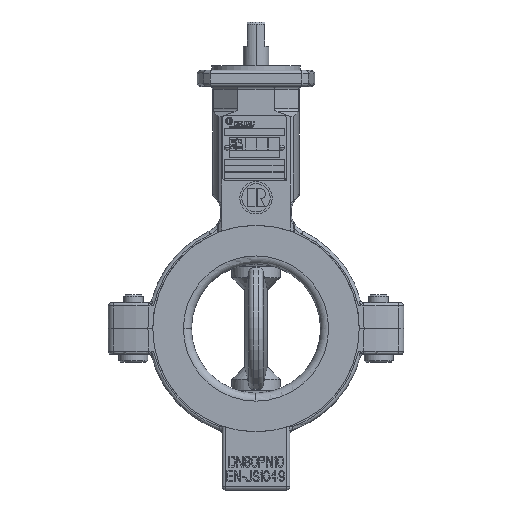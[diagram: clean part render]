
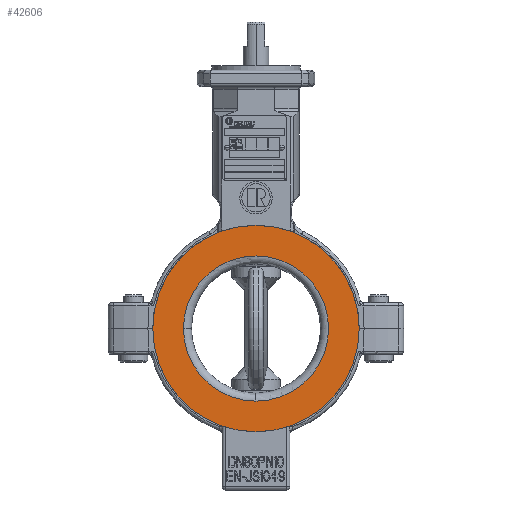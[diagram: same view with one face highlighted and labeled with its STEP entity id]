
A CAD part, top view. The second image highlights one B-rep face of the part: STEP entity #42606.
In plain terms, the highlighted planar face has unit normal (0, 0, 1).
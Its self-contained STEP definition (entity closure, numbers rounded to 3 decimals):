
#14766=CARTESIAN_POINT('',(0.,0.,23.));
#14767=DIRECTION('',(0.,0.,-1.));
#14768=DIRECTION('',(-1.,0.,0.));
#14769=AXIS2_PLACEMENT_3D('',#14766,#14767,#14768);
#14771=CARTESIAN_POINT('',(0.,0.,23.));
#14772=DIRECTION('',(0.,0.,1.));
#14773=DIRECTION('',(-1.,0.,0.));
#14774=AXIS2_PLACEMENT_3D('',#14771,#14772,#14773);
#14776=CARTESIAN_POINT('',(0.,0.,23.));
#14777=DIRECTION('',(0.,0.,-1.));
#14778=DIRECTION('',(0.,-1.,0.));
#14779=AXIS2_PLACEMENT_3D('',#14776,#14777,#14778);
#14793=CARTESIAN_POINT('',(0.,0.,23.));
#14794=DIRECTION('',(0.,0.,-1.));
#14795=DIRECTION('',(-1.,0.,0.));
#14796=AXIS2_PLACEMENT_3D('',#14793,#14794,#14795);
#16293=CARTESIAN_POINT('',(-64.,0.,23.));
#16295=VERTEX_POINT('',#16293);
#16301=CARTESIAN_POINT('',(64.,0.,23.));
#16303=VERTEX_POINT('',#16301);
#20793=CARTESIAN_POINT('',(0.,-45.,23.));
#20794=CARTESIAN_POINT('',(-45.,0.,23.));
#20795=VERTEX_POINT('',#20793);
#20796=VERTEX_POINT('',#20794);
#42591=CARTESIAN_POINT('',(0.,41.5,23.));
#42592=DIRECTION('',(0.,0.,-1.));
#42593=DIRECTION('',(0.,1.,0.));
#42594=AXIS2_PLACEMENT_3D('',#42591,#42592,#42593);
#42595=PLANE('',#42594);
#42596=ORIENTED_EDGE('',*,*,#42570,.T.);
#42597=ORIENTED_EDGE('',*,*,#42584,.F.);
#42598=EDGE_LOOP('',(#42596,#42597));
#42599=FACE_OUTER_BOUND('',#42598,.F.);
#42601=ORIENTED_EDGE('',*,*,#42600,.F.);
#42603=ORIENTED_EDGE('',*,*,#42602,.F.);
#42604=EDGE_LOOP('',(#42601,#42603));
#42605=FACE_BOUND('',#42604,.F.);
#42606=ADVANCED_FACE('',(#42599,#42605),#42595,.F.);
#14770=CIRCLE('',#14769,64.);
#14775=CIRCLE('',#14774,64.);
#14780=CIRCLE('',#14779,45.);
#14797=CIRCLE('',#14796,45.);
#42570=EDGE_CURVE('',#16295,#16303,#14770,.T.);
#42584=EDGE_CURVE('',#16295,#16303,#14775,.T.);
#42600=EDGE_CURVE('',#20796,#20795,#14797,.T.);
#42602=EDGE_CURVE('',#20795,#20796,#14780,.T.);
